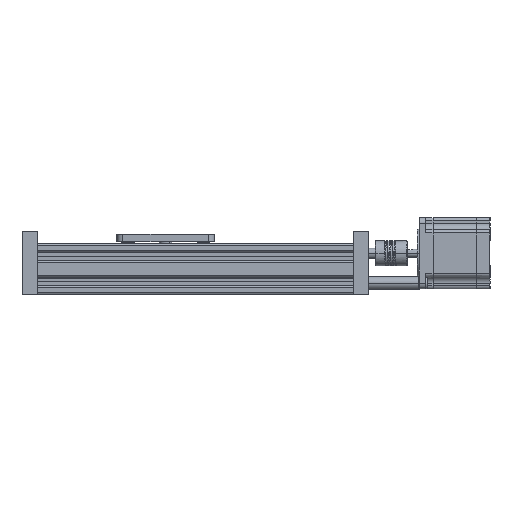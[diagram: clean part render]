
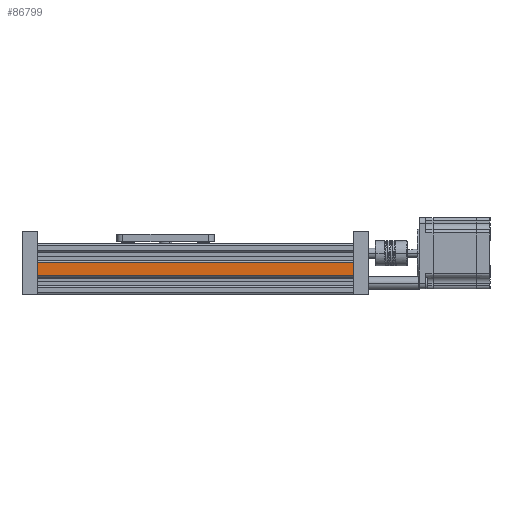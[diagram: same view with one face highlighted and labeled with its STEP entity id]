
A CAD part, left-side view. The second image highlights one B-rep face of the part: STEP entity #86799.
In plain terms, the highlighted planar face has unit normal (-1, 0, 0).
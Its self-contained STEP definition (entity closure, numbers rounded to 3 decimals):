
#85100 = PLANE('',#85101);
#85101 = AXIS2_PLACEMENT_3D('',#85102,#85103,#85104);
#85102 = CARTESIAN_POINT('',(66.448,193.874,
    18.342));
#85103 = DIRECTION('',(0.,1.,0.));
#85104 = DIRECTION('',(0.,-0.,1.));
#85150 = PLANE('',#85151);
#85151 = AXIS2_PLACEMENT_3D('',#85152,#85153,#85154);
#85152 = CARTESIAN_POINT('',(66.448,-56.126,18.342
    ));
#85153 = DIRECTION('',(0.,-1.,0.));
#85154 = DIRECTION('',(0.,-0.,-1.));
#86703 = PLANE('',#86704);
#86704 = AXIS2_PLACEMENT_3D('',#86705,#86706,#86707);
#86705 = CARTESIAN_POINT('',(-13.552,193.874,
    43.762));
#86706 = DIRECTION('',(-0.707,0.,0.707
    ));
#86707 = DIRECTION('',(-0.707,0.,-0.707));
#86737 = VERTEX_POINT('',#86738);
#86738 = CARTESIAN_POINT('',(-13.552,193.874,
    43.762));
#86756 = EDGE_CURVE('',#86757,#86737,#86759,.T.);
#86757 = VERTEX_POINT('',#86758);
#86758 = CARTESIAN_POINT('',(-13.552,-56.126,
    43.762));
#86759 = SURFACE_CURVE('',#86760,(#86763,#86769),.PCURVE_S1.);
#86760 = B_SPLINE_CURVE_WITH_KNOTS('',1,(#86761,#86762),.UNSPECIFIED.,
  .F.,.F.,(2,2),(0.,250.),.PIECEWISE_BEZIER_KNOTS.);
#86761 = CARTESIAN_POINT('',(-13.552,-56.126,
    43.762));
#86762 = CARTESIAN_POINT('',(-13.552,193.874,
    43.762));
#86763 = PCURVE('',#86703,#86764);
#86764 = DEFINITIONAL_REPRESENTATION('',(#86765),#86768);
#86765 = B_SPLINE_CURVE_WITH_KNOTS('',1,(#86766,#86767),.UNSPECIFIED.,
  .F.,.F.,(2,2),(0.,250.),.PIECEWISE_BEZIER_KNOTS.);
#86766 = CARTESIAN_POINT('',(0.,250.));
#86767 = CARTESIAN_POINT('',(0.,0.));
#86768 = ( GEOMETRIC_REPRESENTATION_CONTEXT(2) 
PARAMETRIC_REPRESENTATION_CONTEXT() REPRESENTATION_CONTEXT('2D SPACE',''
  ) );
#86769 = PCURVE('',#86770,#86775);
#86770 = PLANE('',#86771);
#86771 = AXIS2_PLACEMENT_3D('',#86772,#86773,#86774);
#86772 = CARTESIAN_POINT('',(-13.552,193.874,
    32.922));
#86773 = DIRECTION('',(-1.,0.,0.));
#86774 = DIRECTION('',(0.,0.,-1.));
#86775 = DEFINITIONAL_REPRESENTATION('',(#86776),#86779);
#86776 = B_SPLINE_CURVE_WITH_KNOTS('',1,(#86777,#86778),.UNSPECIFIED.,
  .F.,.F.,(2,2),(0.,250.),.PIECEWISE_BEZIER_KNOTS.);
#86777 = CARTESIAN_POINT('',(-10.84,250.));
#86778 = CARTESIAN_POINT('',(-10.84,0.));
#86779 = ( GEOMETRIC_REPRESENTATION_CONTEXT(2) 
PARAMETRIC_REPRESENTATION_CONTEXT() REPRESENTATION_CONTEXT('2D SPACE',''
  ) );
#86799 = ADVANCED_FACE('',(#86800),#86770,.T.);
#86800 = FACE_BOUND('',#86801,.T.);
#86801 = EDGE_LOOP('',(#86802,#86822,#86847,#86865));
#86802 = ORIENTED_EDGE('',*,*,#86803,.F.);
#86803 = EDGE_CURVE('',#86804,#86737,#86806,.T.);
#86804 = VERTEX_POINT('',#86805);
#86805 = CARTESIAN_POINT('',(-13.552,193.874,
    32.922));
#86806 = SURFACE_CURVE('',#86807,(#86810,#86816),.PCURVE_S1.);
#86807 = B_SPLINE_CURVE_WITH_KNOTS('',1,(#86808,#86809),.UNSPECIFIED.,
  .F.,.F.,(2,2),(0.,10.84),.PIECEWISE_BEZIER_KNOTS.);
#86808 = CARTESIAN_POINT('',(-13.552,193.874,
    32.922));
#86809 = CARTESIAN_POINT('',(-13.552,193.874,
    43.762));
#86810 = PCURVE('',#86770,#86811);
#86811 = DEFINITIONAL_REPRESENTATION('',(#86812),#86815);
#86812 = B_SPLINE_CURVE_WITH_KNOTS('',1,(#86813,#86814),.UNSPECIFIED.,
  .F.,.F.,(2,2),(0.,10.84),.PIECEWISE_BEZIER_KNOTS.);
#86813 = CARTESIAN_POINT('',(0.,0.));
#86814 = CARTESIAN_POINT('',(-10.84,0.));
#86815 = ( GEOMETRIC_REPRESENTATION_CONTEXT(2) 
PARAMETRIC_REPRESENTATION_CONTEXT() REPRESENTATION_CONTEXT('2D SPACE',''
  ) );
#86816 = PCURVE('',#85100,#86817);
#86817 = DEFINITIONAL_REPRESENTATION('',(#86818),#86821);
#86818 = B_SPLINE_CURVE_WITH_KNOTS('',1,(#86819,#86820),.UNSPECIFIED.,
  .F.,.F.,(2,2),(0.,10.84),.PIECEWISE_BEZIER_KNOTS.);
#86819 = CARTESIAN_POINT('',(14.58,-80.));
#86820 = CARTESIAN_POINT('',(25.42,-80.));
#86821 = ( GEOMETRIC_REPRESENTATION_CONTEXT(2) 
PARAMETRIC_REPRESENTATION_CONTEXT() REPRESENTATION_CONTEXT('2D SPACE',''
  ) );
#86822 = ORIENTED_EDGE('',*,*,#86823,.F.);
#86823 = EDGE_CURVE('',#86824,#86804,#86826,.T.);
#86824 = VERTEX_POINT('',#86825);
#86825 = CARTESIAN_POINT('',(-13.552,-56.126,
    32.922));
#86826 = SURFACE_CURVE('',#86827,(#86830,#86836),.PCURVE_S1.);
#86827 = B_SPLINE_CURVE_WITH_KNOTS('',1,(#86828,#86829),.UNSPECIFIED.,
  .F.,.F.,(2,2),(0.,250.),.PIECEWISE_BEZIER_KNOTS.);
#86828 = CARTESIAN_POINT('',(-13.552,-56.126,
    32.922));
#86829 = CARTESIAN_POINT('',(-13.552,193.874,
    32.922));
#86830 = PCURVE('',#86770,#86831);
#86831 = DEFINITIONAL_REPRESENTATION('',(#86832),#86835);
#86832 = B_SPLINE_CURVE_WITH_KNOTS('',1,(#86833,#86834),.UNSPECIFIED.,
  .F.,.F.,(2,2),(0.,250.),.PIECEWISE_BEZIER_KNOTS.);
#86833 = CARTESIAN_POINT('',(0.,250.));
#86834 = CARTESIAN_POINT('',(0.,0.));
#86835 = ( GEOMETRIC_REPRESENTATION_CONTEXT(2) 
PARAMETRIC_REPRESENTATION_CONTEXT() REPRESENTATION_CONTEXT('2D SPACE',''
  ) );
#86836 = PCURVE('',#86837,#86842);
#86837 = PLANE('',#86838);
#86838 = AXIS2_PLACEMENT_3D('',#86839,#86840,#86841);
#86839 = CARTESIAN_POINT('',(-13.552,193.874,
    32.922));
#86840 = DIRECTION('',(-0.707,0.,-0.707));
#86841 = DIRECTION('',(0.707,0.,-0.707));
#86842 = DEFINITIONAL_REPRESENTATION('',(#86843),#86846);
#86843 = B_SPLINE_CURVE_WITH_KNOTS('',1,(#86844,#86845),.UNSPECIFIED.,
  .F.,.F.,(2,2),(0.,250.),.PIECEWISE_BEZIER_KNOTS.);
#86844 = CARTESIAN_POINT('',(0.,250.));
#86845 = CARTESIAN_POINT('',(0.,0.));
#86846 = ( GEOMETRIC_REPRESENTATION_CONTEXT(2) 
PARAMETRIC_REPRESENTATION_CONTEXT() REPRESENTATION_CONTEXT('2D SPACE',''
  ) );
#86847 = ORIENTED_EDGE('',*,*,#86848,.T.);
#86848 = EDGE_CURVE('',#86824,#86757,#86849,.T.);
#86849 = SURFACE_CURVE('',#86850,(#86853,#86859),.PCURVE_S1.);
#86850 = B_SPLINE_CURVE_WITH_KNOTS('',1,(#86851,#86852),.UNSPECIFIED.,
  .F.,.F.,(2,2),(0.,10.84),.PIECEWISE_BEZIER_KNOTS.);
#86851 = CARTESIAN_POINT('',(-13.552,-56.126,
    32.922));
#86852 = CARTESIAN_POINT('',(-13.552,-56.126,
    43.762));
#86853 = PCURVE('',#86770,#86854);
#86854 = DEFINITIONAL_REPRESENTATION('',(#86855),#86858);
#86855 = B_SPLINE_CURVE_WITH_KNOTS('',1,(#86856,#86857),.UNSPECIFIED.,
  .F.,.F.,(2,2),(0.,10.84),.PIECEWISE_BEZIER_KNOTS.);
#86856 = CARTESIAN_POINT('',(0.,250.));
#86857 = CARTESIAN_POINT('',(-10.84,250.));
#86858 = ( GEOMETRIC_REPRESENTATION_CONTEXT(2) 
PARAMETRIC_REPRESENTATION_CONTEXT() REPRESENTATION_CONTEXT('2D SPACE',''
  ) );
#86859 = PCURVE('',#85150,#86860);
#86860 = DEFINITIONAL_REPRESENTATION('',(#86861),#86864);
#86861 = B_SPLINE_CURVE_WITH_KNOTS('',1,(#86862,#86863),.UNSPECIFIED.,
  .F.,.F.,(2,2),(0.,10.84),.PIECEWISE_BEZIER_KNOTS.);
#86862 = CARTESIAN_POINT('',(-14.58,-80.));
#86863 = CARTESIAN_POINT('',(-25.42,-80.));
#86864 = ( GEOMETRIC_REPRESENTATION_CONTEXT(2) 
PARAMETRIC_REPRESENTATION_CONTEXT() REPRESENTATION_CONTEXT('2D SPACE',''
  ) );
#86865 = ORIENTED_EDGE('',*,*,#86756,.T.);
